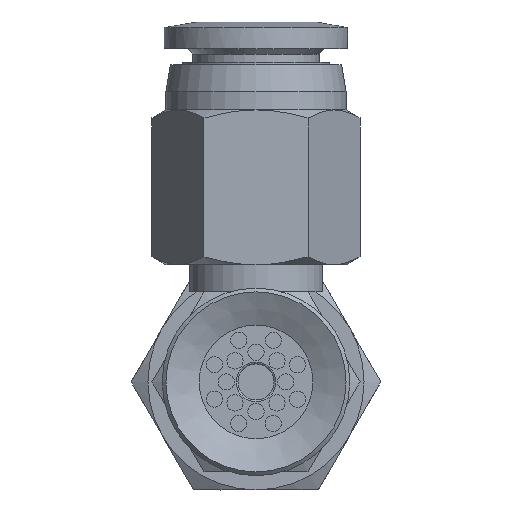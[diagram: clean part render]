
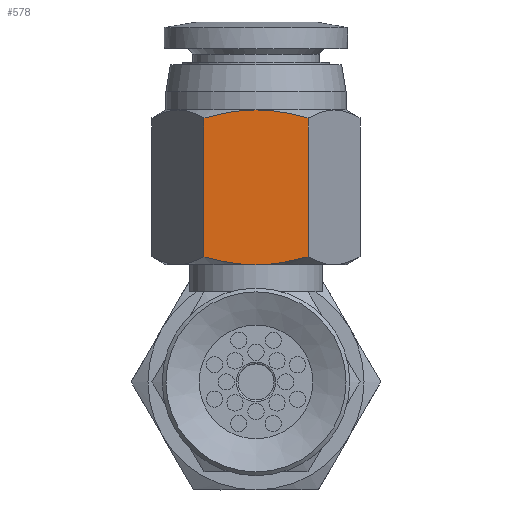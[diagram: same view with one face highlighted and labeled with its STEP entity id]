
A CAD part, front view. The second image highlights one B-rep face of the part: STEP entity #578.
In plain terms, the highlighted planar face has unit normal (0, -1, 0) as drawn and (0, 0, 1) by its records, which use the part's own axes.
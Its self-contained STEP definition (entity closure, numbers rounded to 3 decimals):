
#578=ADVANCED_FACE('',(#954),#955,.T.);
#954=FACE_OUTER_BOUND('',#1676,.T.);
#955=PLANE('',#1677);
#1676=EDGE_LOOP('',(#2705,#2706,#2707,#2708,#2709,#2710));
#1677=AXIS2_PLACEMENT_3D('',#2711,#2712,#2713);
#2705=ORIENTED_EDGE('',*,*,#3368,.F.);
#2706=ORIENTED_EDGE('',*,*,#3360,.F.);
#2707=ORIENTED_EDGE('',*,*,#3369,.F.);
#2708=ORIENTED_EDGE('',*,*,#3370,.F.);
#2709=ORIENTED_EDGE('',*,*,#3371,.T.);
#2710=ORIENTED_EDGE('',*,*,#3372,.F.);
#2711=CARTESIAN_POINT('',(-13.797,5.1,5.));
#2712=DIRECTION('',(0.0,0.0,1.0));
#2713=DIRECTION('',(1.0,0.0,0.0));
#3360=EDGE_CURVE('',#3856,#3858,#3859,.T.);
#3368=EDGE_CURVE('',#3858,#3872,#3873,.T.);
#3369=EDGE_CURVE('',#3806,#3856,#3874,.T.);
#3370=EDGE_CURVE('',#3875,#3806,#3876,.T.);
#3371=EDGE_CURVE('',#3875,#3877,#3878,.T.);
#3372=EDGE_CURVE('',#3872,#3877,#3879,.T.);
#3806=VERTEX_POINT('',#4875);
#3856=VERTEX_POINT('',#4998);
#3858=VERTEX_POINT('',#5009);
#3859=LINE('',#5010,#5011);
#3872=VERTEX_POINT('',#5071);
#3873=(B_SPLINE_CURVE(2,(#5073,#5074,#5075),.UNSPECIFIED.,.F.,.F.)B_SPLINE_CURVE_WITH_KNOTS((3,3),(0.0,0.293),.UNSPECIFIED.)RATIONAL_B_SPLINE_CURVE((1.0,1.038,1.0))BOUNDED_CURVE()REPRESENTATION_ITEM('')GEOMETRIC_REPRESENTATION_ITEM()CURVE());
#3874=(B_SPLINE_CURVE(2,(#5083,#5084,#5085),.UNSPECIFIED.,.F.,.F.)B_SPLINE_CURVE_WITH_KNOTS((3,3),(0.293,0.586),.UNSPECIFIED.)RATIONAL_B_SPLINE_CURVE((1.0,1.038,1.0))BOUNDED_CURVE()REPRESENTATION_ITEM('')GEOMETRIC_REPRESENTATION_ITEM()CURVE());
#3875=VERTEX_POINT('',#5092);
#3876=(B_SPLINE_CURVE(2,(#5094,#5095,#5096),.UNSPECIFIED.,.F.,.F.)B_SPLINE_CURVE_WITH_KNOTS((3,3),(0.0,0.293),.UNSPECIFIED.)RATIONAL_B_SPLINE_CURVE((1.0,1.038,1.0))BOUNDED_CURVE()REPRESENTATION_ITEM('')GEOMETRIC_REPRESENTATION_ITEM()CURVE());
#3877=VERTEX_POINT('',#5103);
#3878=LINE('',#5104,#5105);
#3879=(B_SPLINE_CURVE(2,(#5107,#5108,#5109),.UNSPECIFIED.,.F.,.F.)B_SPLINE_CURVE_WITH_KNOTS((3,3),(0.293,0.586),.UNSPECIFIED.)RATIONAL_B_SPLINE_CURVE((1.0,1.038,1.0))BOUNDED_CURVE()REPRESENTATION_ITEM('')GEOMETRIC_REPRESENTATION_ITEM()CURVE());
#4875=CARTESIAN_POINT('',(-13.797,13.7,5.));
#4998=CARTESIAN_POINT('',(-10.91,13.253,5.));
#5009=CARTESIAN_POINT('',(-10.91,5.547,5.));
#5010=CARTESIAN_POINT('',(-10.91,13.253,5.));
#5011=VECTOR('',#5666,1.0);
#5071=CARTESIAN_POINT('',(-13.797,5.1,5.));
#5073=CARTESIAN_POINT('',(-10.91,5.547,5.));
#5074=CARTESIAN_POINT('',(-12.457,5.1,5.));
#5075=CARTESIAN_POINT('',(-13.797,5.1,5.));
#5083=CARTESIAN_POINT('',(-13.797,13.7,5.));
#5084=CARTESIAN_POINT('',(-12.457,13.7,5.));
#5085=CARTESIAN_POINT('',(-10.91,13.253,5.));
#5092=CARTESIAN_POINT('',(-16.684,13.253,5.));
#5094=CARTESIAN_POINT('',(-16.684,13.253,5.));
#5095=CARTESIAN_POINT('',(-15.137,13.7,5.));
#5096=CARTESIAN_POINT('',(-13.797,13.7,5.));
#5103=CARTESIAN_POINT('',(-16.684,5.547,5.));
#5104=CARTESIAN_POINT('',(-16.684,13.253,5.));
#5105=VECTOR('',#5669,1.0);
#5107=CARTESIAN_POINT('',(-13.797,5.1,5.));
#5108=CARTESIAN_POINT('',(-15.137,5.1,5.));
#5109=CARTESIAN_POINT('',(-16.684,5.547,5.));
#5666=DIRECTION('',(0.0,-1.0,0.));
#5669=DIRECTION('',(0.,-1.0,0.0));
